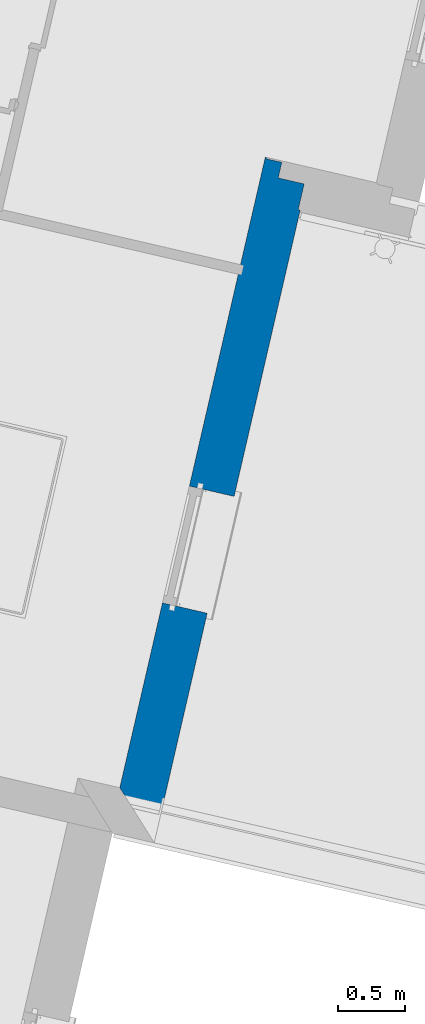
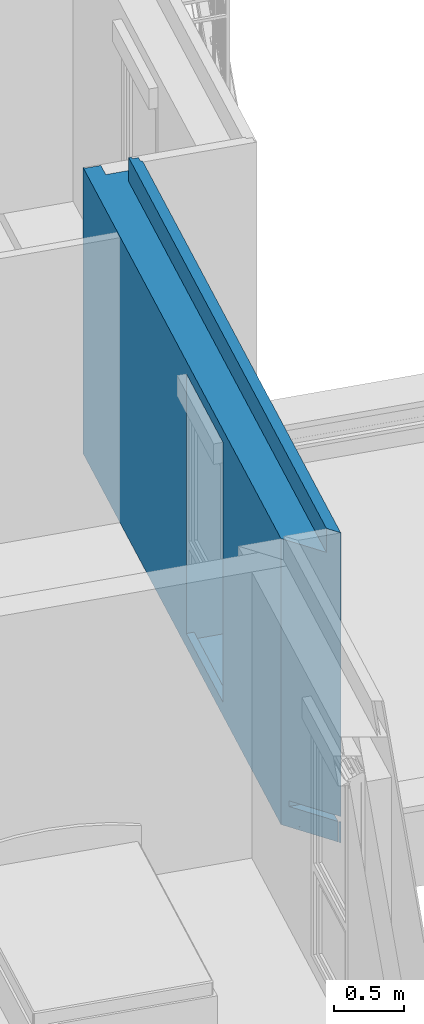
# One storey, part 25 of 90: 1 wall, 1 opening.
"""IFC2X3 building model written with IfcOpenShell, lengths in metres."""

from ifc_helpers import new_model, entity, si_unit, converted_unit, derived_unit, money_unit, direction, frame, origin_with_axes, place, context, subcontext, project, spatial, faceted_brep, material, material_list, type_object, element, save


model = new_model("IFC2X3")

# Units and contexts
model_context = context("Model", 3, precision=1e-05, world=origin_with_axes(), true_north=direction((0.0, 1.0)))
body_context = subcontext(model_context, "Body", "Model", "MODEL_VIEW")
ifc_project = project(units=[si_unit("LENGTHUNIT", "METRE"), si_unit("AREAUNIT", "SQUARE_METRE"), si_unit("VOLUMEUNIT", "CUBIC_METRE"), converted_unit("PLANEANGLEUNIT", "DEGREE", entity("IfcPlaneAngleMeasure", 0.0174532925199), si_unit("PLANEANGLEUNIT", "RADIAN"), dimensions=[0, 0, 0, 0, 0, 0, 0]), si_unit("SOLIDANGLEUNIT", "STERADIAN"), money_unit("EUR"), converted_unit("TIMEUNIT", "Year", entity("IfcTimeMeasure", 31556926.0), si_unit("TIMEUNIT", "SECOND"), dimensions=[0, 0, 1, 0, 0, 0, 0]), si_unit("MASSUNIT", "GRAM", prefix="KILO"), si_unit("THERMODYNAMICTEMPERATUREUNIT", "DEGREE_CELSIUS"), si_unit("LUMINOUSINTENSITYUNIT", "LUMEN"), si_unit("ENERGYUNIT", "JOULE", prefix="MEGA"), derived_unit("THERMALCONDUCTANCEUNIT", [(si_unit("POWERUNIT", "WATT"), 1), (si_unit("LENGTHUNIT", "METRE"), -1), (si_unit("THERMODYNAMICTEMPERATUREUNIT", "KELVIN"), -1)]), derived_unit("SPECIFICHEATCAPACITYUNIT", [(si_unit("ENERGYUNIT", "JOULE"), 1), (si_unit("MASSUNIT", "GRAM", prefix="KILO"), -1), (si_unit("THERMODYNAMICTEMPERATUREUNIT", "KELVIN"), -1)]), derived_unit("MASSDENSITYUNIT", [(si_unit("MASSUNIT", "GRAM", prefix="KILO"), 1), (si_unit("VOLUMEUNIT", "CUBIC_METRE"), -1)])], contexts=[model_context])

# Site, building, storey
site_placement = place(None, origin_with_axes())
site = spatial("IfcSite", under=ifc_project, at=site_placement, Name="Site", CompositionType="ELEMENT")
building_placement = place(site_placement, origin_with_axes())
building = spatial("IfcBuilding", under=site, at=building_placement, Name="Bâtiment", CompositionType="ELEMENT")
storey_placement = place(building_placement, frame((0.0, 0.0, 2.72), z_axis=(0.0, 0.0, 1.0), x_axis=(1.0, 0.0, 0.0)))
storey = spatial("IfcBuildingStorey", under=building, at=storey_placement, Name="R+1", CompositionType="ELEMENT", Elevation=2.72)

# Wall, opening
ifc_material_1 = material(Name="Finition ext - Crépis")
ifc_material_2 = material(Name="Béton cellulaire")
ifc_material_3 = material(Name="Mortier")
ifc_material_4 = material(Name="Isolation - Polystyrène expansé")
ifc_material_5 = material(Name="Bloc ELITHERM")
ifc_material_6 = material(Name="Isolation - Polystyrène extrudé")
ifc_material_7 = material(Name="Finition int - Plaque de plâtre")
ifc_material_list = material_list([ifc_material_1, ifc_material_2, ifc_material_3, ifc_material_4, ifc_material_5, ifc_material_6, ifc_material_7])
wall_type = type_object("IfcWallType", Name="Mur ALKERN + planelle 21 345 x 2720", PredefinedType="USERDEFINED")
wall_placement = place(storey_placement, frame((-3.95852982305, -5.66773087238, 0.0), z_axis=(0.0, 0.0, 1.0), x_axis=(-0.224876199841, -0.97438734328, 0.0)))
wall = element("IfcWall", 1, at=wall_placement, inside=storey, type_object=wall_type, material=ifc_material_list, Name="Mue bloc ALKERN isolé", ObjectType="SOLIDWALL", context=body_context, shape_type="Brep", body=[
    faceted_brep([(2.19006127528, -0.0149999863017, 0.12), (2.19006127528, -7.00355329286e-09, 0.12), (2.19006127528, -7.00355329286e-09, 2.22), (2.19006127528, -0.0149999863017, 2.22), (2.19006127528, -7.00355329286e-09, 0.06), (2.19006127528, -0.0149999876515, 0.06), (4.64395460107, -7.00355640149e-09, 0.0382285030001), (4.64042513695, -7.0035559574e-09, 0.0371447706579), (4.61751534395, -7.0035559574e-09, 0.0301102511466), (4.61751534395, -7.0035559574e-09, 0.0278539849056), (4.61751534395, -6.67770105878e-09, 0.0), (-0.015, -4.44056347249e-10, 0.0), (-0.015, -7.00355240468e-09, 2.51), (-0.015, -7.00355240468e-09, 2.51999999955), (-0.015, 0.0, 2.72), (4.85967340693, -7.0035559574e-09, 2.72), (4.85967340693, -7.0035559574e-09, 0.230000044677), (4.56008997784, -7.00355551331e-09, 0.230000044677), (4.56008997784, -7.00355551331e-09, 0.228000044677), (4.56008997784, -7.00355551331e-09, 0.188024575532), (4.56008997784, -7.00355551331e-09, 0.183746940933), (4.56008997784, -7.00355551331e-09, 0.180000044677), (4.64500000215, -7.00355551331e-09, 0.180000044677), (4.64500000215, -7.00355551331e-09, 0.0765427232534), (4.64395460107, -7.00355640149e-09, 0.0765427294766), (3.09006127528, -7.00355506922e-09, 0.06), (3.09006127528, -7.00355506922e-09, 0.12), (3.09006127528, -7.00355506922e-09, 2.22), (3.09006127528, -0.0149999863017, 2.22), (4.56008997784, -0.0149999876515, 0.180000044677), (4.56008997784, -0.0149999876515, 0.183746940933), (4.56008997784, -0.0149999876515, 0.188024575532), (4.56008997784, -0.0149999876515, 0.228000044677), (4.56008997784, -0.0149999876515, 0.230000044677), (4.84467342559, -0.0149999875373, 0.230000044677), (4.84467342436, -0.0149999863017, 2.72), (-0.0149999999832, -0.0149999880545, 2.72), (-0.0149999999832, -0.0149999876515, 2.51999999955), (-0.0149999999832, -0.0149999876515, 2.51), (-0.0149999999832, -0.0149999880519, 0.0), (4.61751534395, -0.0149999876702, 0.0), (4.61751534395, -0.0149999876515, 0.0278539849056), (4.61751534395, -0.0149999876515, 0.0301102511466), (4.64042513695, -0.0149999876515, 0.0371447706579), (4.64395460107, -0.0149999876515, 0.0382285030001), (4.64395460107, -0.0149999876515, 0.0765427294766), (4.64500000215, -0.0149999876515, 0.0765427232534), (4.64500000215, -0.0149999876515, 0.180000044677), (3.09006127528, -0.0149999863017, 0.12), (3.09006127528, -0.0149999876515, 0.06)], [[[0, 1, 2, 3]], [[4, 1, 0, 5]], [[6, 7, 8, 9, 10, 11, 12, 13, 14, 15, 16, 17, 18, 19, 20, 21, 22, 23, 24], [25, 26, 27, 2, 1, 4]], [[27, 28, 3, 2]], [[29, 30, 31, 32, 33, 34, 35, 36, 37, 38, 39, 40, 41, 42, 43, 44, 45, 46, 47], [5, 0, 3, 28, 48, 49]], [[25, 4, 5, 49]], [[7, 6, 44, 43]], [[43, 42, 8, 7]], [[8, 42, 41, 9]], [[41, 40, 10, 9]], [[40, 39, 11, 10]], [[12, 11, 39, 38]], [[13, 12, 38, 37]], [[14, 13, 37, 36]], [[36, 35, 15, 14]], [[16, 15, 35, 34]], [[16, 34, 33, 17]], [[17, 33, 32, 18]], [[32, 31, 19, 18]], [[31, 30, 20, 19]], [[30, 29, 21, 20]], [[29, 47, 22, 21]], [[47, 46, 23, 22]], [[46, 45, 24, 23]], [[24, 45, 44, 6]], [[48, 26, 25, 49]], [[26, 48, 28, 27]]]),
    faceted_brep([(4.84499999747, -0.0146734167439, 0.180000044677), (4.84499999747, -7.0035559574e-09, 0.180000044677), (4.84499999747, -7.0035559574e-09, 0.0765427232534), (4.84499999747, -0.0146734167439, 0.0765427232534), (4.85967340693, -7.0035559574e-09, 0.180000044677), (4.85967340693, -7.0035559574e-09, 0.0), (4.84499999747, -6.98381263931e-09, 0.0), (4.84499999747, -7.0035559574e-09, 0.0278539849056), (4.84499999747, -7.0035559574e-09, 0.0371447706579), (4.84499999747, -0.0146734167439, 0.0371447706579), (4.84499999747, -0.0146734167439, 0.0278539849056), (4.84499999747, -0.0146734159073, 0.0)], [[[0, 1, 2, 3]], [[4, 1, 0]], [[1, 4, 5, 6, 7, 8, 2]], [[3, 2, 8, 9]], [[4, 0, 3, 9, 10, 11, 5]], [[11, 6, 5]], [[10, 7, 6, 11]], [[9, 8, 7, 10]]]),
    faceted_brep([(-0.0630000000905, -0.015, 2.51999999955), (-0.0630000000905, -0.0149999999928, 2.72), (4.84467341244, -0.0149999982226, 2.72), (4.84467341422, -0.015, 2.5199999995), (-0.0630000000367, -0.0629999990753, 2.72), (-0.0630000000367, -0.0629999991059, 2.51999999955), (4.79667340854, -0.062999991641, 2.72), (4.796673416, -0.0629999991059, 2.51999999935)], [[[0, 1, 2, 3]], [[4, 1, 0, 5]], [[1, 4, 6, 2]], [[7, 3, 2, 6]], [[5, 0, 3, 7]], [[4, 5, 7, 6]]]),
    faceted_brep([(4.77667340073, -0.0829999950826, 2.51999998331), (4.84467341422, -0.015, 2.51999999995), (-0.0829999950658, -0.015, 2.51999998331), (-0.0829999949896, -0.083, 2.51999998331), (4.84467341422, -0.015, 2.51000000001), (4.77667340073, -0.0829999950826, 2.51000000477), (-0.0829999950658, -0.015, 2.51000000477), (-0.0829999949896, -0.083, 2.51000000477)], [[[0, 1, 2, 3]], [[4, 1, 0, 5]], [[1, 4, 6, 2]], [[2, 6, 7, 3]], [[5, 0, 3, 7]], [[4, 5, 7, 6]]]),
    faceted_brep([(-0.0829999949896, -0.083000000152, 2.72), (4.77667340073, -0.0829999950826, 2.72), (4.79667340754, -0.0629999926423, 2.72), (-0.082999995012, -0.0630000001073, 2.72), (-0.0829999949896, -0.083000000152, 2.51999998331), (4.77667340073, -0.0829999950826, 2.51999998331), (4.796673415, -0.0630000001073, 2.51999999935), (-0.082999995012, -0.0630000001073, 2.51999998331)], [[[0, 1, 2, 3]], [[4, 5, 1, 0]], [[5, 6, 2, 1]], [[3, 2, 6, 7]], [[4, 0, 3, 7]], [[7, 6, 5, 4]]]),
    faceted_brep([(2.19006127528, -0.21499998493, 0.12), (2.19006127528, -0.015, 0.12), (2.19006127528, -0.015, 2.22), (2.19006127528, -0.21499998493, 2.22), (2.19006127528, -0.015, 0.06), (2.19006127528, -0.21499998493, 0.06), (4.61751534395, -0.015, 0.0278539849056), (4.61751534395, -0.0149999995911, 0.0), (-0.215000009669, -0.0149999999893, 0.0), (-0.215000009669, -0.015, 2.51), (4.84467341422, -0.015, 2.5099999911), (4.84467341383, -0.0149999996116, 0.230000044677), (4.56008997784, -0.015, 0.230000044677), (4.56008997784, -0.015, 0.228000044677), (4.56008997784, -0.015, 0.188024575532), (4.56008997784, -0.015, 0.183746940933), (4.56008997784, -0.015, 0.180000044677), (4.84467341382, -0.0149999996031, 0.180000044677), (4.84467341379, -0.0149999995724, 0.0), (4.61874942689, -0.014999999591, 0.0), (4.61874942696, -0.015, 0.0278539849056), (4.61874942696, -0.015, 0.0289939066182), (4.64499999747, -0.015, 0.0371447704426), (4.64499999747, -0.015, 0.0765427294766), (4.64395460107, -0.015, 0.0765427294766), (4.64395460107, -0.015, 0.0382285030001), (4.64042513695, -0.015, 0.0371447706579), (4.61751534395, -0.015, 0.0301102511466), (3.09006127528, -0.015, 0.06), (3.09006127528, -0.015, 0.12), (3.09006127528, -0.015, 2.22), (3.09006127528, -0.21499998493, 2.22), (4.64467342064, -0.214999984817, 0.0765427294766), (4.64467342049, -0.214999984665, 0.180000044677), (4.56008997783, -0.21499998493, 0.180000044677), (4.56008997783, -0.21499998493, 0.183746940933), (4.56008997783, -0.21499998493, 0.188024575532), (4.56008997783, -0.21499998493, 0.228000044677), (4.56008997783, -0.21499998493, 0.230000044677), (4.64467342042, -0.214999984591, 0.230000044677), (4.64467341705, -0.214999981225, 2.51000000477), (-0.215000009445, -0.214999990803, 2.51), (-0.215000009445, -0.2149999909, 0.0), (4.61751534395, -0.214999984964, 0.0), (4.61751534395, -0.21499998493, 0.0278539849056), (4.61751534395, -0.21499998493, 0.0301102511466), (4.64042513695, -0.21499998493, 0.0371447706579), (4.64395460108, -0.21499998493, 0.0382285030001), (4.64395460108, -0.21499998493, 0.0765427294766), (3.09006127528, -0.21499998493, 0.12), (3.09006127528, -0.21499998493, 0.06), (-0.215000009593, -0.0829999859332, 2.51), (4.77667340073, -0.0829999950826, 2.51000000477), (4.64499999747, -0.214673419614, 0.0765427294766), (4.64499999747, -0.214673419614, 0.0371447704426), (4.6446734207, -0.214999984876, 0.0370433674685), (4.64467342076, -0.21499998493, 0.0), (4.6187494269, -0.214999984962, 0.0), (4.61874942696, -0.21499998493, 0.0278539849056), (4.61874942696, -0.21499998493, 0.0289939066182)], [[[0, 1, 2, 3]], [[4, 1, 0, 5]], [[6, 7, 8, 9, 10, 11, 12, 13, 14, 15, 16, 17, 18, 19, 20, 21, 22, 23, 24, 25, 26, 27], [28, 29, 30, 2, 1, 4]], [[30, 31, 3, 2]], [[32, 33, 34, 35, 36, 37, 38, 39, 40, 41, 42, 43, 44, 45, 46, 47, 48], [5, 0, 3, 31, 49, 50]], [[28, 4, 5, 50]], [[43, 7, 6, 44]], [[42, 8, 7, 43]], [[41, 51, 9, 8, 42]], [[52, 10, 9, 51]], [[40, 39, 11, 10, 52]], [[39, 38, 12, 11]], [[38, 37, 13, 12]], [[36, 14, 13, 37]], [[35, 15, 14, 36]], [[34, 16, 15, 35]], [[33, 17, 16, 34]], [[32, 53, 54, 55, 56, 18, 17, 33]], [[18, 56, 57, 19]], [[19, 57, 58, 20]], [[58, 59, 21, 20]], [[55, 54, 22, 21, 59]], [[54, 53, 23, 22]], [[48, 24, 23, 53, 32]], [[48, 47, 25, 24]], [[25, 47, 46, 26]], [[45, 27, 26, 46]], [[45, 44, 6, 27]], [[49, 29, 28, 50]], [[29, 49, 31, 30]], [[40, 52, 51, 41]], [[55, 59, 58, 57, 56]]]),
    faceted_brep([(2.19006127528, -0.245, 0.12), (2.19006127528, -0.215000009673, 0.12), (2.19006127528, -0.215, 2.22), (2.19006127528, -0.245, 2.22), (2.19006127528, -0.214999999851, 0.06), (2.19006127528, -0.286, 0.12), (2.19006127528, -0.286, 0.06), (4.56008997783, -0.214999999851, 0.180000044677), (4.64467340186, -0.215000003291, 0.180000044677), (4.64467340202, -0.215000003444, 0.0765427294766), (4.64395460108, -0.214999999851, 0.0765427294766), (4.64395460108, -0.214999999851, 0.0382285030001), (4.64042513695, -0.214999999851, 0.0371447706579), (4.61751534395, -0.214999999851, 0.0301102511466), (4.61751534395, -0.214999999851, 0.0278539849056), (4.61751534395, -0.21500000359, 0.0), (-0.335000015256, -0.215000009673, 0.0), (-0.335000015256, -0.215000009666, 2.51), (4.64467339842, -0.214999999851, 2.51000000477), (4.64467340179, -0.215000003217, 0.230000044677), (4.56008997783, -0.214999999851, 0.230000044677), (4.56008997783, -0.214999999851, 0.228000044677), (4.56008997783, -0.214999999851, 0.188024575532), (4.56008997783, -0.214999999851, 0.183746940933), (3.09006127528, -0.214999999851, 0.06), (3.09006127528, -0.215000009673, 0.12), (3.09006127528, -0.215, 2.22), (3.09006127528, -0.215, 2.4), (2.19006127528, -0.215, 2.4), (2.19006127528, -0.335000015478, 2.4), (2.19006127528, -0.335000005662, 2.22), (2.19006127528, -0.335000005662, 0.12), (3.09006127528, -0.286, 0.12), (3.09006127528, -0.286, 0.06), (4.56008997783, -0.299583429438, 0.180000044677), (4.52467339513, -0.335000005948, 0.0), (4.61751534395, -0.242158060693, 0.0), (4.61751534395, -0.242158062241, 0.0278539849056), (4.61751534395, -0.242158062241, 0.0301102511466), (4.64042513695, -0.219248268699, 0.0371447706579), (4.64395460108, -0.215718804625, 0.0382285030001), (4.64395460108, -0.215718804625, 0.0765427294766), (4.56008997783, -0.299583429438, 0.183746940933), (4.56008997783, -0.299583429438, 0.188024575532), (4.56008997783, -0.299583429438, 0.228000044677), (4.56008997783, -0.299583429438, 0.230000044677), (4.52467339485, -0.335000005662, 2.51000000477), (-0.335000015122, -0.335000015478, 0.0), (-0.335000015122, -0.335000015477, 2.51), (3.09006127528, -0.245, 0.12), (3.09006127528, -0.245, 2.22), (3.09006127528, -0.335000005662, 2.22), (3.09006127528, -0.335000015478, 2.4), (3.09006127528, -0.335000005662, 0.12)], [[[0, 1, 2, 3]], [[4, 1, 0, 5, 6]], [[7, 8, 9, 10, 11, 12, 13, 14, 15, 16, 17, 18, 19, 20, 21, 22, 23], [24, 25, 26, 27, 28, 2, 1, 4]], [[29, 30, 3, 2, 28]], [[5, 0, 3, 30, 31]], [[5, 32, 33, 6]], [[24, 4, 6, 33]], [[8, 7, 34]], [[35, 36, 37, 38, 39, 40, 41, 9, 8, 34, 42, 43, 44, 45, 19, 18, 46]], [[41, 10, 9]], [[40, 11, 10, 41]], [[40, 39, 12, 11]], [[13, 12, 39, 38]], [[37, 14, 13, 38]], [[15, 14, 37, 36]], [[35, 47, 16, 15, 36]], [[47, 48, 17, 16]], [[18, 17, 48, 46]], [[45, 20, 19]], [[44, 21, 20, 45]], [[22, 21, 44, 43]], [[23, 22, 43, 42]], [[7, 23, 42, 34]], [[49, 25, 24, 33, 32]], [[25, 49, 50, 26]], [[50, 51, 52, 27, 26]], [[27, 52, 29, 28]], [[46, 48, 47, 35], [31, 30, 29, 52, 51, 53]], [[32, 5, 31, 53]], [[49, 32, 53, 51, 50]]]),
    faceted_brep([(4.61874942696, -0.214999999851, 0.0289939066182), (4.64467340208, -0.215000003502, 0.037043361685), (4.64467340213, -0.215000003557, 0.0), (4.6187494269, -0.215000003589, 0.0), (4.61874942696, -0.214999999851, 0.0278539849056), (4.61874942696, -0.240923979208, 0.0289939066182), (4.61874942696, -0.240923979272, 0.0278539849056), (4.6187494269, -0.240923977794, 0.0)], [[[0, 1, 2, 3, 4]], [[1, 0, 5]], [[5, 6, 7, 2, 1]], [[7, 3, 2]], [[6, 4, 3, 7]], [[0, 4, 6, 5]]]),
    faceted_brep([(4.52467339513, -0.335000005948, 0.0), (-0.344999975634, -0.335000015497, 0.0), (-0.344999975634, -0.335000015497, 2.51000000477), (4.52467339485, -0.335000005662, 2.51000000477), (3.09006127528, -0.335000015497, 2.22), (3.09006127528, -0.335000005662, 2.4), (2.19006127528, -0.335000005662, 2.4), (2.19006127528, -0.335000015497, 2.22), (2.19006127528, -0.335000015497, 0.12), (3.09006127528, -0.335000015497, 0.12), (4.51467342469, -0.344999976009, 0.0), (-0.344999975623, -0.34499998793, 0.0), (-0.344999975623, -0.34499998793, 2.51000000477), (4.51467342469, -0.344999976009, 2.51000000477), (3.09006127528, -0.34499998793, 2.22), (3.09006127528, -0.344999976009, 2.4), (2.19006127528, -0.344999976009, 2.4), (2.19006127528, -0.34499998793, 2.22), (2.19006127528, -0.34499998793, 0.12), (3.09006127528, -0.34499998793, 0.12)], [[[0, 1, 2, 3], [4, 5, 6, 7, 8, 9]], [[10, 11, 1, 0]], [[2, 1, 11, 12]], [[3, 2, 12, 13]], [[3, 13, 10, 0]], [[5, 4, 14, 15]], [[6, 5, 15, 16]], [[7, 6, 16, 17]], [[7, 17, 18, 8]], [[8, 18, 19, 9]], [[14, 4, 9, 19]], [[13, 12, 11, 10], [15, 14, 19, 18, 17, 16]]]),
])
opening_placement = place(wall_placement, frame((2.64006127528, 0.0, 0.12), z_axis=(0.0, 0.0, 1.0), x_axis=(1.0, 0.0, 0.0)))
element("IfcOpeningElement", 2, at=opening_placement, cuts=wall, Name="MEN 32", context=body_context, shape_type="Brep", body=[
    faceted_brep([(0.45, -0.245, 0.0), (0.45, -0.245, 2.1), (0.45, -0.83499998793, 2.1), (0.45, -0.83499998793, 0.0), (-0.45, -0.245, 0.0), (-0.45, -0.245, 2.1), (-0.45, -0.83499998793, 2.1), (-0.45, -0.83499998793, 0.0)], [[[0, 1, 2, 3]], [[0, 4, 5, 1]], [[1, 5, 6, 2]], [[3, 2, 6, 7]], [[4, 0, 3, 7]], [[5, 4, 7, 6]]]),
    faceted_brep([(0.45, -0.245, 0.0), (-0.45, -0.245, 0.0), (-0.45, 0.34499998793, 0.0), (0.45, 0.34499998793, 0.0), (0.45, -0.245, 2.1), (-0.45, -0.245, 2.1), (-0.45, 0.34499998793, 2.1), (0.45, 0.34499998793, 2.1)], [[[0, 1, 2, 3]], [[0, 4, 5, 1]], [[1, 5, 6, 2]], [[3, 2, 6, 7]], [[4, 0, 3, 7]], [[5, 4, 7, 6]]]),
    faceted_brep([(0.45, -0.245, 0.0), (-0.45, -0.245, 0.0), (-0.45, 0.34499998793, 0.0), (0.45, 0.34499998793, 0.0), (0.45, -0.245, 2.1), (-0.45, -0.245, 2.1), (-0.45, 0.34499998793, 2.1), (0.45, 0.34499998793, 2.1)], [[[0, 1, 2, 3]], [[0, 4, 5, 1]], [[1, 5, 6, 2]], [[3, 2, 6, 7]], [[4, 0, 3, 7]], [[5, 4, 7, 6]]]),
    faceted_brep([(0.45, -0.215, 2.1), (0.45, -0.215, 2.28), (0.45, -0.80499998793, 2.28), (0.45, -0.80499998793, 2.1), (-0.45, -0.215, 2.1), (-0.45, -0.215, 2.28), (-0.45, -0.80499998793, 2.28), (-0.45, -0.80499998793, 2.1)], [[[0, 1, 2, 3]], [[0, 4, 5, 1]], [[1, 5, 6, 2]], [[3, 2, 6, 7]], [[4, 0, 3, 7]], [[5, 4, 7, 6]]]),
    faceted_brep([(0.45, -0.286, 0.0), (0.45, -0.286, -0.06), (0.45, 0.30399998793, -0.06), (0.45, 0.30399998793, 0.0), (-0.45, -0.286, 0.0), (-0.45, -0.286, -0.06), (-0.45, 0.30399998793, -0.06), (-0.45, 0.30399998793, 0.0)], [[[0, 1, 2, 3]], [[0, 4, 5, 1]], [[1, 5, 6, 2]], [[3, 2, 6, 7]], [[4, 0, 3, 7]], [[5, 4, 7, 6]]]),
])

save(model, "model.ifc")
